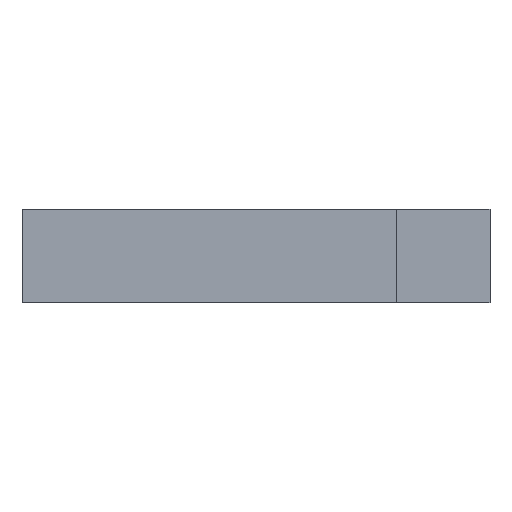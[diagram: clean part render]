
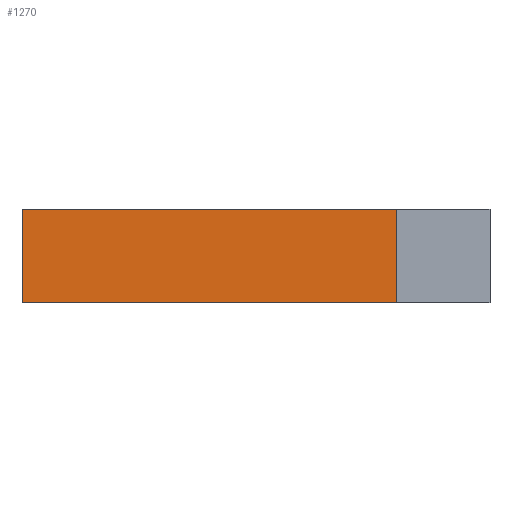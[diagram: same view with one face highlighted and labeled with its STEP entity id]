
A CAD part, left-side view. The second image highlights one B-rep face of the part: STEP entity #1270.
In plain terms, the highlighted planar face has unit normal (-1, 0, 0).
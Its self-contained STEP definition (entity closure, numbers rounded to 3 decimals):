
#31 = CARTESIAN_POINT ( 'NONE',  ( -30., -25., 10. ) ) ;
#71 = CARTESIAN_POINT ( 'NONE',  ( -30., -25., 0. ) ) ;
#77 = DIRECTION ( 'NONE',  ( 0., 1., 0. ) ) ;
#90 = DIRECTION ( 'NONE',  ( 0., 1., 0. ) ) ;
#151 = CARTESIAN_POINT ( 'NONE',  ( -30., 25., 10. ) ) ;
#166 = DIRECTION ( 'NONE',  ( 0., 0., -1. ) ) ;
#192 = DIRECTION ( 'NONE',  ( 0., 0., 1. ) ) ;
#216 = CARTESIAN_POINT ( 'NONE',  ( -30., -15., 0. ) ) ;
#703 = VECTOR ( 'NONE', #90, 1000. ) ;
#707 = VECTOR ( 'NONE', #77, 1000. ) ;
#728 = LINE ( 'NONE', #71, #703 ) ;
#733 = LINE ( 'NONE', #31, #707 ) ;
#749 = VECTOR ( 'NONE', #192, 1000. ) ;
#758 = VECTOR ( 'NONE', #166, 1000. ) ;
#782 = LINE ( 'NONE', #216, #749 ) ;
#790 = LINE ( 'NONE', #151, #758 ) ;
#1270 = ADVANCED_FACE ( 'NONE', ( #3933 ), #4562, .T. ) ;
#1537 = CARTESIAN_POINT ( 'NONE',  ( -30., -15., 0. ) ) ;
#1564 = CARTESIAN_POINT ( 'NONE',  ( -30., -15., 10. ) ) ;
#1609 = CARTESIAN_POINT ( 'NONE',  ( -30., 25., 10. ) ) ;
#1641 = CARTESIAN_POINT ( 'NONE',  ( -30., 25., 0. ) ) ;
#1736 = AXIS2_PLACEMENT_3D ( 'NONE', #4547, #4535, #4563 ) ;
#1997 = EDGE_CURVE ( 'NONE', #3671, #5011, #733, .T. ) ;
#1999 = EDGE_CURVE ( 'NONE', #3617, #5028, #728, .T. ) ;
#2016 = EDGE_CURVE ( 'NONE', #5011, #5028, #790, .T. ) ;
#2026 = EDGE_CURVE ( 'NONE', #3617, #3671, #782, .T. ) ;
#3227 = ORIENTED_EDGE ( 'NONE', *, *, #1997, .T. ) ;
#3240 = ORIENTED_EDGE ( 'NONE', *, *, #2016, .T. ) ;
#3282 = ORIENTED_EDGE ( 'NONE', *, *, #1999, .F. ) ;
#3395 = ORIENTED_EDGE ( 'NONE', *, *, #2026, .T. ) ;
#3617 = VERTEX_POINT ( 'NONE', #1537 ) ;
#3671 = VERTEX_POINT ( 'NONE', #1564 ) ;
#3933 = FACE_OUTER_BOUND ( 'NONE', #5507, .T. ) ;
#4535 = DIRECTION ( 'NONE',  ( -1., 0., 0. ) ) ;
#4547 = CARTESIAN_POINT ( 'NONE',  ( -30., -25., 10. ) ) ;
#4562 = PLANE ( 'NONE',  #1736 ) ;
#4563 = DIRECTION ( 'NONE',  ( 0., -1., 0. ) ) ;
#5011 = VERTEX_POINT ( 'NONE', #1609 ) ;
#5028 = VERTEX_POINT ( 'NONE', #1641 ) ;
#5507 = EDGE_LOOP ( 'NONE', ( #3395, #3227, #3240, #3282 ) ) ;
